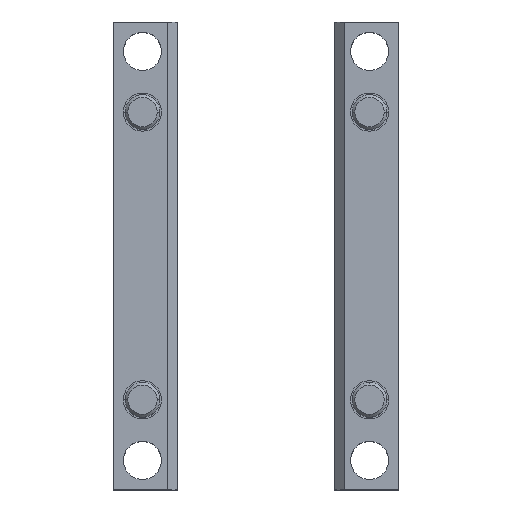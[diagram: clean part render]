
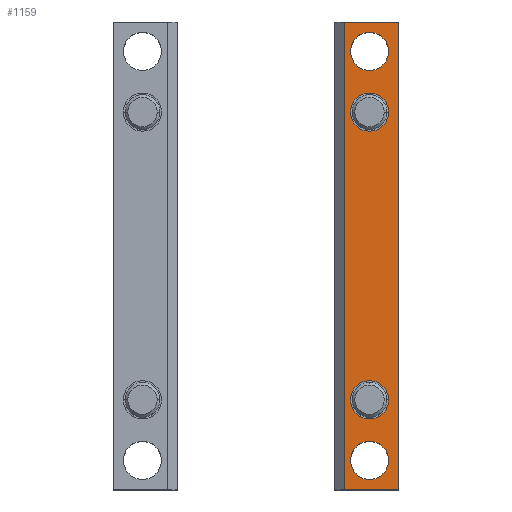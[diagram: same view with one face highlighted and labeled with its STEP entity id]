
A CAD part, top view. The second image highlights one B-rep face of the part: STEP entity #1159.
In plain terms, the highlighted planar face has unit normal (0, 0, 1).
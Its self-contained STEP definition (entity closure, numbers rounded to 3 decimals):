
#26 = CARTESIAN_POINT ( 'NONE',  ( 64., 17., -49.5 ) ) ;
#47 = EDGE_LOOP ( 'NONE', ( #3379, #1170 ) ) ;
#65 = FACE_BOUND ( 'NONE', #47, .T. ) ;
#158 = DIRECTION ( 'NONE',  ( 0., 1., 0. ) ) ;
#281 = AXIS2_PLACEMENT_3D ( 'NONE', #3256, #2382, #3192 ) ;
#286 = CARTESIAN_POINT ( 'NONE',  ( 65.5, 146., -49.5 ) ) ;
#301 = VECTOR ( 'NONE', #1677, 1000. ) ;
#316 = FACE_BOUND ( 'NONE', #864, .T. ) ;
#346 = LINE ( 'NONE', #948, #3489 ) ;
#367 = DIRECTION ( 'NONE',  ( 0., 1., 0. ) ) ;
#370 = CARTESIAN_POINT ( 'NONE',  ( 51., 152., -49.5 ) ) ;
#378 = VERTEX_POINT ( 'NONE', #3518 ) ;
#458 = CARTESIAN_POINT ( 'NONE',  ( 65.5, 89., -49.5 ) ) ;
#472 = CIRCLE ( 'NONE', #2619, 11. ) ;
#515 = AXIS2_PLACEMENT_3D ( 'NONE', #593, #844, #1761 ) ;
#593 = CARTESIAN_POINT ( 'NONE',  ( 65.5, 135., -49.5 ) ) ;
#613 = EDGE_CURVE ( 'NONE', #2930, #2005, #2905, .T. ) ;
#619 = LINE ( 'NONE', #1729, #1584 ) ;
#626 = DIRECTION ( 'NONE',  ( 0., 1., 0. ) ) ;
#639 = AXIS2_PLACEMENT_3D ( 'NONE', #3400, #1938, #1258 ) ;
#680 = ORIENTED_EDGE ( 'NONE', *, *, #613, .T. ) ;
#712 = EDGE_LOOP ( 'NONE', ( #1892, #3467 ) ) ;
#720 = CARTESIAN_POINT ( 'NONE',  ( 65.5, -101., -49.5 ) ) ;
#780 = LINE ( 'NONE', #3481, #896 ) ;
#841 = CIRCLE ( 'NONE', #281, 11. ) ;
#844 = DIRECTION ( 'NONE',  ( 0., 0., -1. ) ) ;
#864 = EDGE_LOOP ( 'NONE', ( #1341, #1836 ) ) ;
#896 = VECTOR ( 'NONE', #1377, 1000. ) ;
#897 = VERTEX_POINT ( 'NONE', #458 ) ;
#900 = EDGE_CURVE ( 'NONE', #3286, #1843, #2971, .T. ) ;
#948 = CARTESIAN_POINT ( 'NONE',  ( 45.5, -118., -49.5 ) ) ;
#1074 = VERTEX_POINT ( 'NONE', #3164 ) ;
#1148 = CIRCLE ( 'NONE', #2130, 11. ) ;
#1159 = ADVANCED_FACE ( 'NONE', ( #2067, #65, #1494, #316, #1796 ), #3797, .F. ) ;
#1170 = ORIENTED_EDGE ( 'NONE', *, *, #900, .T. ) ;
#1195 = CARTESIAN_POINT ( 'NONE',  ( 65.5, -77., -49.5 ) ) ;
#1254 = CARTESIAN_POINT ( 'NONE',  ( 82.5, 152., -49.5 ) ) ;
#1258 = DIRECTION ( 'NONE',  ( 0., 1., 0. ) ) ;
#1317 = AXIS2_PLACEMENT_3D ( 'NONE', #2767, #1617, #3078 ) ;
#1341 = ORIENTED_EDGE ( 'NONE', *, *, #1825, .T. ) ;
#1377 = DIRECTION ( 'NONE',  ( -1., 0., 0. ) ) ;
#1482 = EDGE_CURVE ( 'NONE', #2411, #3660, #780, .T. ) ;
#1494 = FACE_BOUND ( 'NONE', #712, .T. ) ;
#1496 = ORIENTED_EDGE ( 'NONE', *, *, #1861, .T. ) ;
#1584 = VECTOR ( 'NONE', #3556, 1000. ) ;
#1609 = ORIENTED_EDGE ( 'NONE', *, *, #1482, .T. ) ;
#1617 = DIRECTION ( 'NONE',  ( 0., 0., -1. ) ) ;
#1619 = AXIS2_PLACEMENT_3D ( 'NONE', #26, #2662, #626 ) ;
#1632 = ORIENTED_EDGE ( 'NONE', *, *, #2295, .F. ) ;
#1677 = DIRECTION ( 'NONE',  ( 0., 1., 0. ) ) ;
#1729 = CARTESIAN_POINT ( 'NONE',  ( 51., 84.5, -49.5 ) ) ;
#1761 = DIRECTION ( 'NONE',  ( 0., 1., 0. ) ) ;
#1794 = VERTEX_POINT ( 'NONE', #2174 ) ;
#1796 = FACE_OUTER_BOUND ( 'NONE', #2855, .T. ) ;
#1808 = DIRECTION ( 'NONE',  ( 0., 0., -1. ) ) ;
#1825 = EDGE_CURVE ( 'NONE', #1074, #1989, #3678, .T. ) ;
#1836 = ORIENTED_EDGE ( 'NONE', *, *, #2818, .T. ) ;
#1843 = VERTEX_POINT ( 'NONE', #3751 ) ;
#1861 = EDGE_CURVE ( 'NONE', #1970, #2411, #1944, .T. ) ;
#1892 = ORIENTED_EDGE ( 'NONE', *, *, #2280, .T. ) ;
#1910 = CARTESIAN_POINT ( 'NONE',  ( 65.5, -66., -49.5 ) ) ;
#1938 = DIRECTION ( 'NONE',  ( 0., 0., -1. ) ) ;
#1944 = LINE ( 'NONE', #3137, #301 ) ;
#1970 = VERTEX_POINT ( 'NONE', #2919 ) ;
#1989 = VERTEX_POINT ( 'NONE', #1195 ) ;
#2005 = VERTEX_POINT ( 'NONE', #286 ) ;
#2067 = FACE_BOUND ( 'NONE', #2996, .T. ) ;
#2102 = EDGE_CURVE ( 'NONE', #378, #1970, #346, .T. ) ;
#2130 = AXIS2_PLACEMENT_3D ( 'NONE', #720, #2188, #3296 ) ;
#2153 = ORIENTED_EDGE ( 'NONE', *, *, #2102, .T. ) ;
#2174 = CARTESIAN_POINT ( 'NONE',  ( 65.5, 111., -49.5 ) ) ;
#2188 = DIRECTION ( 'NONE',  ( 0., 0., -1. ) ) ;
#2190 = DIRECTION ( 'NONE',  ( 0., 0., -1. ) ) ;
#2217 = CARTESIAN_POINT ( 'NONE',  ( 65.5, 124., -49.5 ) ) ;
#2280 = EDGE_CURVE ( 'NONE', #1794, #897, #841, .T. ) ;
#2294 = CIRCLE ( 'NONE', #515, 11. ) ;
#2295 = EDGE_CURVE ( 'NONE', #378, #3660, #619, .T. ) ;
#2379 = CARTESIAN_POINT ( 'NONE',  ( 65.5, -66., -49.5 ) ) ;
#2382 = DIRECTION ( 'NONE',  ( 0., 0., -1. ) ) ;
#2398 = DIRECTION ( 'NONE',  ( 1., 0., 0. ) ) ;
#2411 = VERTEX_POINT ( 'NONE', #1254 ) ;
#2467 = EDGE_CURVE ( 'NONE', #1843, #3286, #1148, .T. ) ;
#2471 = EDGE_CURVE ( 'NONE', #897, #1794, #472, .T. ) ;
#2486 = CARTESIAN_POINT ( 'NONE',  ( 65.5, -112., -49.5 ) ) ;
#2619 = AXIS2_PLACEMENT_3D ( 'NONE', #3597, #1808, #3065 ) ;
#2662 = DIRECTION ( 'NONE',  ( 0., 0., -1. ) ) ;
#2767 = CARTESIAN_POINT ( 'NONE',  ( 65.5, -101., -49.5 ) ) ;
#2818 = EDGE_CURVE ( 'NONE', #1989, #1074, #3223, .T. ) ;
#2855 = EDGE_LOOP ( 'NONE', ( #1632, #2153, #1496, #1609 ) ) ;
#2905 = CIRCLE ( 'NONE', #639, 11. ) ;
#2919 = CARTESIAN_POINT ( 'NONE',  ( 82.5, -118., -49.5 ) ) ;
#2930 = VERTEX_POINT ( 'NONE', #2217 ) ;
#2971 = CIRCLE ( 'NONE', #1317, 11. ) ;
#2996 = EDGE_LOOP ( 'NONE', ( #3264, #680 ) ) ;
#3043 = AXIS2_PLACEMENT_3D ( 'NONE', #2379, #3352, #367 ) ;
#3065 = DIRECTION ( 'NONE',  ( 0., 1., 0. ) ) ;
#3078 = DIRECTION ( 'NONE',  ( 0., 1., 0. ) ) ;
#3119 = EDGE_CURVE ( 'NONE', #2005, #2930, #2294, .T. ) ;
#3137 = CARTESIAN_POINT ( 'NONE',  ( 82.5, -118., -49.5 ) ) ;
#3164 = CARTESIAN_POINT ( 'NONE',  ( 65.5, -55., -49.5 ) ) ;
#3192 = DIRECTION ( 'NONE',  ( 0., 1., 0. ) ) ;
#3223 = CIRCLE ( 'NONE', #3043, 11. ) ;
#3256 = CARTESIAN_POINT ( 'NONE',  ( 65.5, 100., -49.5 ) ) ;
#3264 = ORIENTED_EDGE ( 'NONE', *, *, #3119, .T. ) ;
#3286 = VERTEX_POINT ( 'NONE', #2486 ) ;
#3296 = DIRECTION ( 'NONE',  ( 0., 1., 0. ) ) ;
#3352 = DIRECTION ( 'NONE',  ( 0., 0., -1. ) ) ;
#3379 = ORIENTED_EDGE ( 'NONE', *, *, #2467, .T. ) ;
#3400 = CARTESIAN_POINT ( 'NONE',  ( 65.5, 135., -49.5 ) ) ;
#3467 = ORIENTED_EDGE ( 'NONE', *, *, #2471, .T. ) ;
#3481 = CARTESIAN_POINT ( 'NONE',  ( 82.5, 152., -49.5 ) ) ;
#3489 = VECTOR ( 'NONE', #2398, 1000. ) ;
#3518 = CARTESIAN_POINT ( 'NONE',  ( 51., -118., -49.5 ) ) ;
#3556 = DIRECTION ( 'NONE',  ( 0., 1., 0. ) ) ;
#3597 = CARTESIAN_POINT ( 'NONE',  ( 65.5, 100., -49.5 ) ) ;
#3619 = AXIS2_PLACEMENT_3D ( 'NONE', #1910, #2190, #158 ) ;
#3660 = VERTEX_POINT ( 'NONE', #370 ) ;
#3678 = CIRCLE ( 'NONE', #3619, 11. ) ;
#3751 = CARTESIAN_POINT ( 'NONE',  ( 65.5, -90., -49.5 ) ) ;
#3797 = PLANE ( 'NONE',  #1619 ) ;
